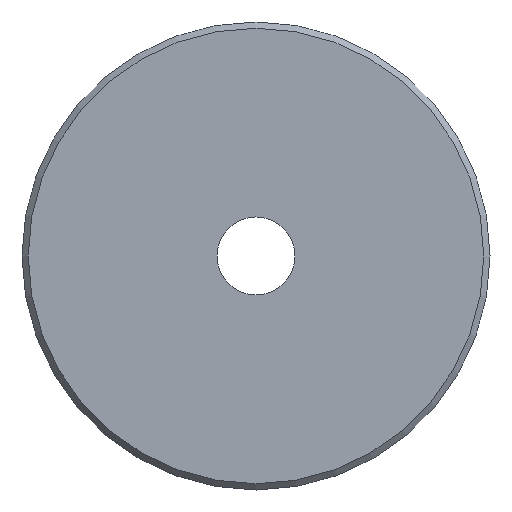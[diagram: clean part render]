
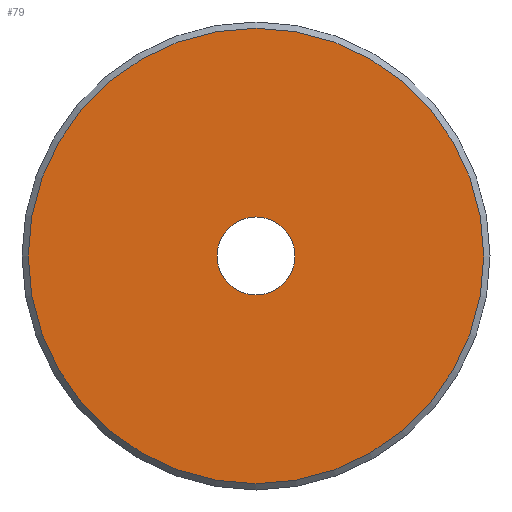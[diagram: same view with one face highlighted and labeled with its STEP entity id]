
A CAD part, front view. The second image highlights one B-rep face of the part: STEP entity #79.
In plain terms, the highlighted planar face has unit normal (0, -1, 0).
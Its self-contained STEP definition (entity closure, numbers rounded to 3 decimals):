
#16=PLANE('',#92);
#23=FACE_BOUND('',#40,.T.);
#29=FACE_OUTER_BOUND('',#39,.T.);
#39=EDGE_LOOP('',(#69));
#40=EDGE_LOOP('',(#70));
#47=CIRCLE('',#91,12.5);
#48=CIRCLE('',#93,73.);
#53=VERTEX_POINT('',#134);
#54=VERTEX_POINT('',#137);
#59=EDGE_CURVE('',#53,#53,#47,.T.);
#60=EDGE_CURVE('',#54,#54,#48,.T.);
#69=ORIENTED_EDGE('',*,*,#60,.F.);
#70=ORIENTED_EDGE('',*,*,#59,.T.);
#79=ADVANCED_FACE('',(#29,#23),#16,.T.);
#91=AXIS2_PLACEMENT_3D('',#135,#113,#114);
#92=AXIS2_PLACEMENT_3D('',#136,#115,#116);
#93=AXIS2_PLACEMENT_3D('',#138,#117,#118);
#113=DIRECTION('center_axis',(0.,1.,0.));
#114=DIRECTION('ref_axis',(1.,0.,0.));
#115=DIRECTION('center_axis',(0.,-1.,0.));
#116=DIRECTION('ref_axis',(0.,0.,-1.));
#117=DIRECTION('center_axis',(0.,1.,0.));
#118=DIRECTION('ref_axis',(1.,0.,0.));
#134=CARTESIAN_POINT('',(24.881,-12.314,0.));
#135=CARTESIAN_POINT('Origin',(37.381,-12.314,0.));
#136=CARTESIAN_POINT('Origin',(-35.619,-12.314,0.));
#137=CARTESIAN_POINT('',(-35.619,-12.314,0.));
#138=CARTESIAN_POINT('Origin',(37.381,-12.314,0.));
